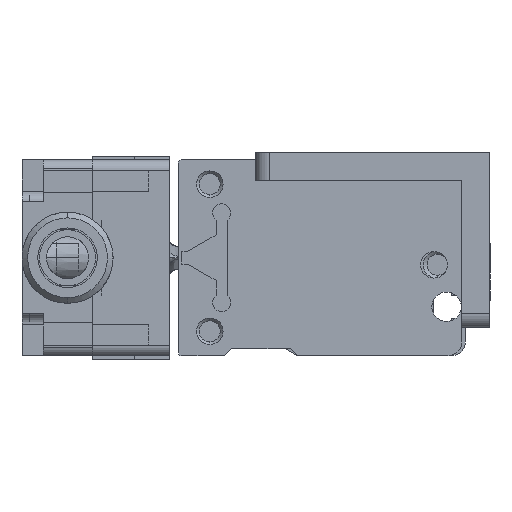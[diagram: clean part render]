
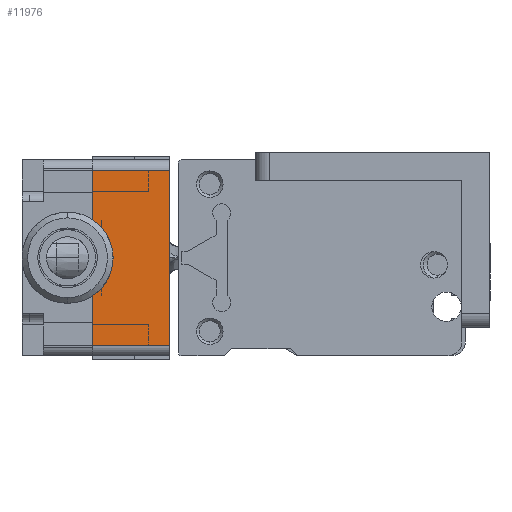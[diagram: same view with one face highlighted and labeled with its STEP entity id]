
A CAD part, left-side view. The second image highlights one B-rep face of the part: STEP entity #11976.
In plain terms, the highlighted planar face has unit normal (-1, 0, 0).
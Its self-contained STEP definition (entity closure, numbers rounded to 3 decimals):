
#1816 = CARTESIAN_POINT ( 'NONE',  ( -0.373, -56.938, -12.5 ) ) ;
#1817 = DIRECTION ( 'NONE',  ( 0., 1., 0. ) ) ;
#1818 = CARTESIAN_POINT ( 'NONE',  ( -0.373, -45.718, 15.08 ) ) ;
#1819 = DIRECTION ( 'NONE',  ( 0., 0., 1. ) ) ;
#1824 = CARTESIAN_POINT ( 'NONE',  ( -0.373, -45.718, 12.5 ) ) ;
#1825 = DIRECTION ( 'NONE',  ( 0., -1., 0. ) ) ;
#1826 = CARTESIAN_POINT ( 'NONE',  ( -0.373, -56.718, 15.08 ) ) ;
#1827 = DIRECTION ( 'NONE',  ( 0., 0., 1. ) ) ;
#2389 = AXIS2_PLACEMENT_3D ( 'NONE', #16913, #16916, #16917 ) ;
#3729 = CARTESIAN_POINT ( 'NONE',  ( -0.373, -45.718, -12.5 ) ) ;
#3850 = CARTESIAN_POINT ( 'NONE',  ( -0.373, -56.718, -12.5 ) ) ;
#3861 = CARTESIAN_POINT ( 'NONE',  ( -0.373, -56.718, 12.5 ) ) ;
#3922 = CARTESIAN_POINT ( 'NONE',  ( -0.373, -45.718, 12.5 ) ) ;
#10592 = VERTEX_POINT ( 'NONE', #3922 ) ;
#10646 = VERTEX_POINT ( 'NONE', #3861 ) ;
#10656 = VERTEX_POINT ( 'NONE', #3850 ) ;
#10770 = VERTEX_POINT ( 'NONE', #3729 ) ;
#11173 = FACE_OUTER_BOUND ( 'NONE', #12375, .T. ) ;
#11976 = ADVANCED_FACE ( 'NONE', ( #11173 ), #16914, .F. ) ;
#12375 = EDGE_LOOP ( 'NONE', ( #19022, #19021, #19020, #19019 ) ) ;
#16913 = CARTESIAN_POINT ( 'NONE',  ( -0.373, -56.938, 13. ) ) ;
#16914 = PLANE ( 'NONE',  #2389 ) ;
#16916 = DIRECTION ( 'NONE',  ( 1., 0., 0. ) ) ;
#16917 = DIRECTION ( 'NONE',  ( 0., 0., -1. ) ) ;
#18076 = LINE ( 'NONE', #1816, #18077 ) ;
#18077 = VECTOR ( 'NONE', #1817, 1000. ) ;
#18078 = LINE ( 'NONE', #1818, #18079 ) ;
#18079 = VECTOR ( 'NONE', #1819, 1000. ) ;
#18082 = LINE ( 'NONE', #1824, #18083 ) ;
#18083 = VECTOR ( 'NONE', #1825, 1000. ) ;
#18084 = LINE ( 'NONE', #1826, #18085 ) ;
#18085 = VECTOR ( 'NONE', #1827, 1000. ) ;
#18402 = EDGE_CURVE ( 'NONE', #10656, #10770, #18076, .T. ) ;
#18403 = EDGE_CURVE ( 'NONE', #10770, #10592, #18078, .T. ) ;
#18406 = EDGE_CURVE ( 'NONE', #10592, #10646, #18082, .T. ) ;
#18407 = EDGE_CURVE ( 'NONE', #10656, #10646, #18084, .T. ) ;
#19019 = ORIENTED_EDGE ( 'NONE', *, *, #18402, .F. ) ;
#19020 = ORIENTED_EDGE ( 'NONE', *, *, #18403, .F. ) ;
#19021 = ORIENTED_EDGE ( 'NONE', *, *, #18406, .F. ) ;
#19022 = ORIENTED_EDGE ( 'NONE', *, *, #18407, .T. ) ;
